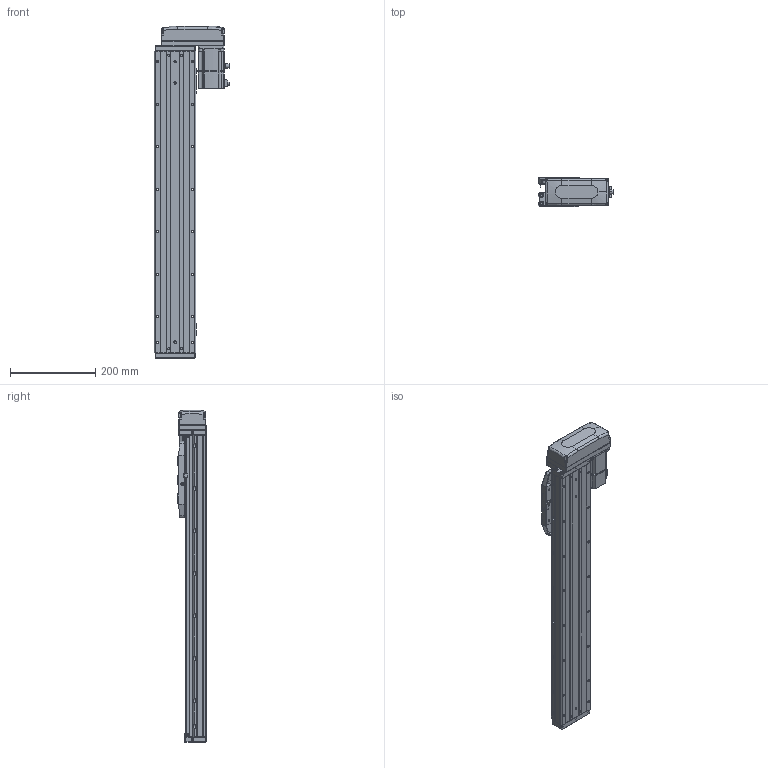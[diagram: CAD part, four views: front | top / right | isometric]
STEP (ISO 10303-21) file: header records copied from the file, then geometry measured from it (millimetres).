
FILE_DESCRIPTION (( 'STEP AP203' ), '1' );
FILE_NAME ('CTHA100-500-BL-M20-C4L.step', '2022-07-06T08:57:42', ( '微软用户' ), ( '微软中国' ), 'SwSTEP 2.0', 'SolidWorks 2020', '' );
FILE_SCHEMA (( 'CONFIG_CONTROL_DESIGN' ));
Length unit declared in the file: millimetre
Products named in the file (19): CTHA60-017; CTHA100-002; CTHA60-021; CTHA100-031; KTHA100-001_710; GBT77-2000 M3×3; CTHA86-030; KTHA100-004; GBT 70.1-M3℅6; GBT 70.3-M3℅6; KTHA100-005; GBT70.1 M5℅16; CTHA86-015-1_CTHA86-015-2; GB¨uT 70.2-M3¡Á5_M3¡Á6; CTHA60-016; CTHA86-033; EE_SX911P_R; _X2_4E0983F1_X0_200W_1; CTHA100-500-BL-M20-C4L
Assembly tree (64 placements, depth 2):
  CTHA100-500-BL-M20-C4L
    KTHA100-001_710
    KTHA100-004
    KTHA100-005
    GB¨uT 70.2-M3¡Á5_M3¡Á6  x10
    EE_SX911P_R  x3
    CTHA60-017  x3
    CTHA60-021  x2
    GBT77-2000 M3×3  x6
    GBT 70.1-M3℅6  x10
    GBT70.1 M5℅16  x14
    CTHA60-016  x2
    _X2_4E0983F1_X0_200W_1
    CTHA100-002
    CTHA100-031
    CTHA86-030  x2
    GBT 70.3-M3℅6  x4
    CTHA86-015-1_CTHA86-015-2
    CTHA86-033
Bounding box: 177.7 x 68 x 781 mm (x, y, z)
Volume: 3414236.8 mm3; surface area: 585235.1 mm2
Topology: 66 solids, 66 shells, 2669 faces, 6415 edges, 3976 vertices
Faces by surface type: plane 1392, cylinder 701, cone 353, torus 124, bspline 75, sphere 24
Entity records: 45992 total; most frequent: CARTESIAN_POINT 9035, DIRECTION 7094, ORIENTED_EDGE 6946, EDGE_CURVE 3473, AXIS2_PLACEMENT_3D 2407, VECTOR 2280, LINE 2280, VERTEX_POINT 2196
